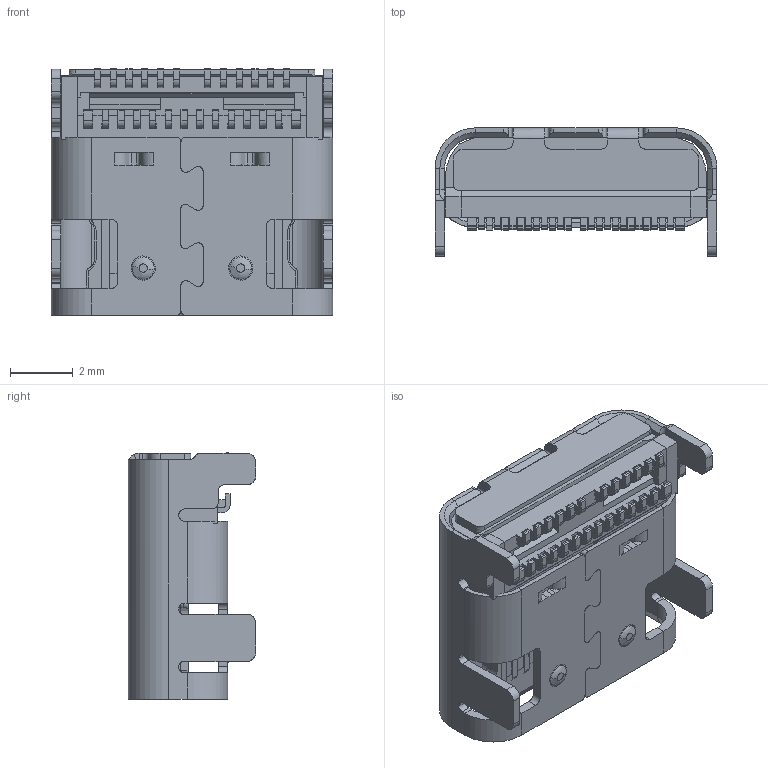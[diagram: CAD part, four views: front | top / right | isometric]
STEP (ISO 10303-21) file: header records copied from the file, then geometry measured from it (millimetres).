
FILE_DESCRIPTION (( 'STEP AP214' ), '1' );
FILE_NAME ('U5111-24PNXXJ7.9LXX.STEP', '2026-05-20T02:15:52', ( '' ), ( '' ), 'SwSTEP 2.0', 'SolidWorks 2024', '' );
FILE_SCHEMA (( 'AUTOMOTIVE_DESIGN' ));
Products named in the file (1): U5111-24PNXXJ7.9LXX
Bounding box: 8.94 x 4.06 x 7.83 mm (x, y, z)
Surface area: 1160.3 mm2 (no closed solid volume)
Topology: 0 solids, 612 shells, 3349 faces, 15081 edges, 11697 vertices
Faces by surface type: bspline 3349
Entity records: 142280 total; most frequent: CARTESIAN_POINT 66417, ORIENTED_EDGE 21372, EDGE_CURVE 15081, B_SPLINE_CURVE_WITH_KNOTS 14137, VERTEX_POINT 11697, EDGE_LOOP 3434, ADVANCED_FACE 3349, FACE_OUTER_BOUND 3349
